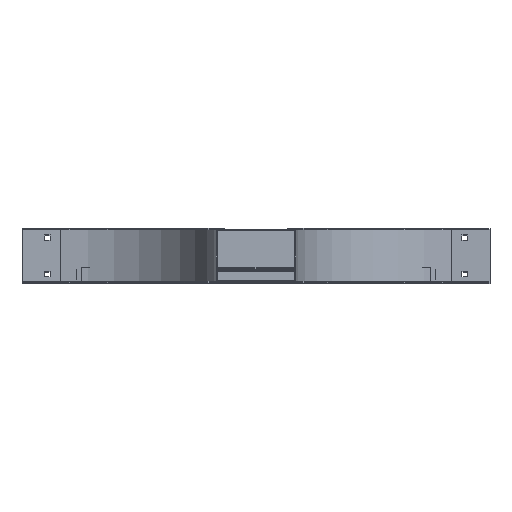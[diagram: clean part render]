
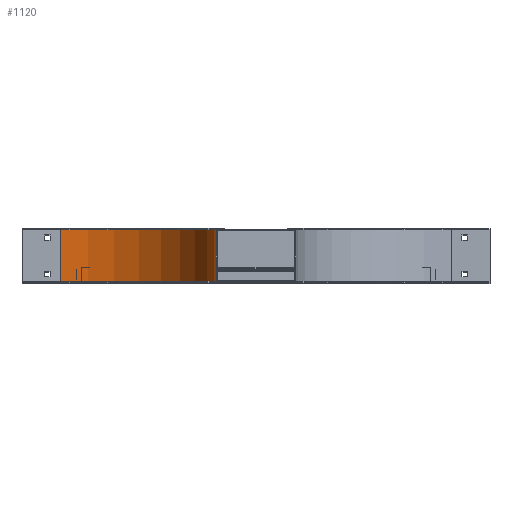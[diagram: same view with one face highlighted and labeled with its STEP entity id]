
A CAD part, top view. The second image highlights one B-rep face of the part: STEP entity #1120.
In plain terms, the highlighted cylindrical face has radius 304.8 mm (diameter 609.6 mm), a partial arc.
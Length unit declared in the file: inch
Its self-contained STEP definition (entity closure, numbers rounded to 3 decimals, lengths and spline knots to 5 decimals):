
#157=CARTESIAN_POINT('',(4.095,-12.,3.));
#158=DIRECTION('',(1.,0.,0.));
#159=DIRECTION('',(0.,1.,0.));
#160=AXIS2_PLACEMENT_3D('',#157,#158,#159);
#350=DIRECTION('',(1.,0.,0.));
#351=VECTOR('',#350,4.015);
#352=CARTESIAN_POINT('',(0.08,-12.,15.));
#353=LINE('',#352,#351);
#390=DIRECTION('',(1.,0.,0.));
#391=VECTOR('',#390,4.015);
#392=CARTESIAN_POINT('',(0.08,0.,3.));
#393=LINE('',#392,#391);
#394=CARTESIAN_POINT('',(0.08,-12.,3.));
#395=DIRECTION('',(1.,0.,0.));
#396=DIRECTION('',(0.,1.,0.));
#397=AXIS2_PLACEMENT_3D('',#394,#395,#396);
#521=CARTESIAN_POINT('',(0.08,0.,3.));
#522=CARTESIAN_POINT('',(4.095,0.,3.));
#523=VERTEX_POINT('',#521);
#524=VERTEX_POINT('',#522);
#545=CARTESIAN_POINT('',(0.08,-12.,15.));
#546=CARTESIAN_POINT('',(4.095,-12.,15.));
#547=VERTEX_POINT('',#545);
#548=VERTEX_POINT('',#546);
#1109=CARTESIAN_POINT('',(-1.,-12.,3.));
#1110=DIRECTION('',(1.,0.,0.));
#1111=DIRECTION('',(0.,-1.,0.));
#1112=AXIS2_PLACEMENT_3D('',#1109,#1110,#1111);
#1113=CYLINDRICAL_SURFACE('',#1112,12.);
#1114=ORIENTED_EDGE('',*,*,#894,.F.);
#1115=ORIENTED_EDGE('',*,*,#935,.T.);
#1116=ORIENTED_EDGE('',*,*,#1082,.T.);
#1117=ORIENTED_EDGE('',*,*,#872,.F.);
#1118=EDGE_LOOP('',(#1114,#1115,#1116,#1117));
#1119=FACE_OUTER_BOUND('',#1118,.F.);
#1120=ADVANCED_FACE('',(#1119),#1113,.F.);
#161=CIRCLE('',#160,12.);
#398=CIRCLE('',#397,12.);
#872=EDGE_CURVE('',#524,#548,#161,.T.);
#894=EDGE_CURVE('',#523,#524,#393,.T.);
#935=EDGE_CURVE('',#523,#547,#398,.T.);
#1082=EDGE_CURVE('',#547,#548,#353,.T.);
